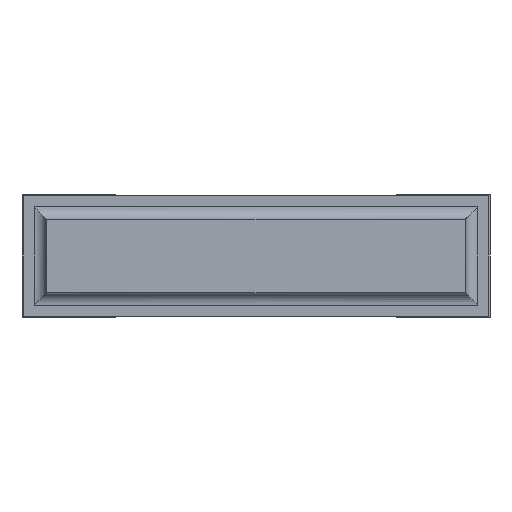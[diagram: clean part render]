
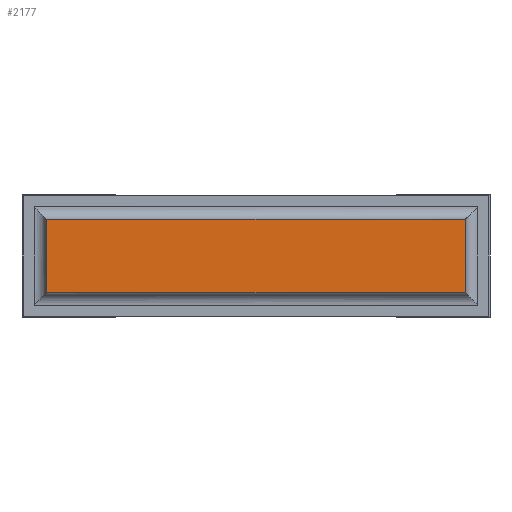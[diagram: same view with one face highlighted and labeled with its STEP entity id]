
A CAD part, front view. The second image highlights one B-rep face of the part: STEP entity #2177.
In plain terms, the highlighted planar face has unit normal (0, -1, 0).
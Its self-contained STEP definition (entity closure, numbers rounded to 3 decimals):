
#54=PLANE('',#2332);
#155=FACE_OUTER_BOUND('',#280,.T.);
#280=EDGE_LOOP('',(#1547,#1548,#1549,#1550));
#398=LINE('',#3103,#678);
#423=LINE('',#3162,#703);
#424=LINE('',#3164,#704);
#425=LINE('',#3165,#705);
#678=VECTOR('',#2492,10.);
#703=VECTOR('',#2545,10.);
#704=VECTOR('',#2546,10.);
#705=VECTOR('',#2547,10.);
#975=VERTEX_POINT('',#3100);
#976=VERTEX_POINT('',#3102);
#996=VERTEX_POINT('',#3161);
#997=VERTEX_POINT('',#3163);
#1184=EDGE_CURVE('',#976,#975,#398,.T.);
#1214=EDGE_CURVE('',#975,#996,#423,.T.);
#1215=EDGE_CURVE('',#996,#997,#424,.T.);
#1216=EDGE_CURVE('',#997,#976,#425,.T.);
#1547=ORIENTED_EDGE('',*,*,#1214,.T.);
#1548=ORIENTED_EDGE('',*,*,#1215,.T.);
#1549=ORIENTED_EDGE('',*,*,#1216,.T.);
#1550=ORIENTED_EDGE('',*,*,#1184,.T.);
#2177=ADVANCED_FACE('',(#155),#54,.T.);
#2332=AXIS2_PLACEMENT_3D('',#3160,#2543,#2544);
#2492=DIRECTION('',(0.,0.,-1.));
#2543=DIRECTION('center_axis',(0.,-1.,0.));
#2544=DIRECTION('ref_axis',(0.,0.,-1.));
#2545=DIRECTION('',(1.,0.,0.));
#2546=DIRECTION('',(0.,0.,1.));
#2547=DIRECTION('',(-1.,0.,0.));
#3100=CARTESIAN_POINT('',(0.1,0.,0.1));
#3102=CARTESIAN_POINT('',(0.1,0.,0.4));
#3103=CARTESIAN_POINT('',(0.1,0.,0.4));
#3160=CARTESIAN_POINT('Origin',(0.1,0.,0.25));
#3161=CARTESIAN_POINT('',(1.81,0.,0.1));
#3162=CARTESIAN_POINT('',(0.1,0.,0.1));
#3163=CARTESIAN_POINT('',(1.81,0.,0.4));
#3164=CARTESIAN_POINT('',(1.81,0.,0.1));
#3165=CARTESIAN_POINT('',(1.81,0.,0.4));
